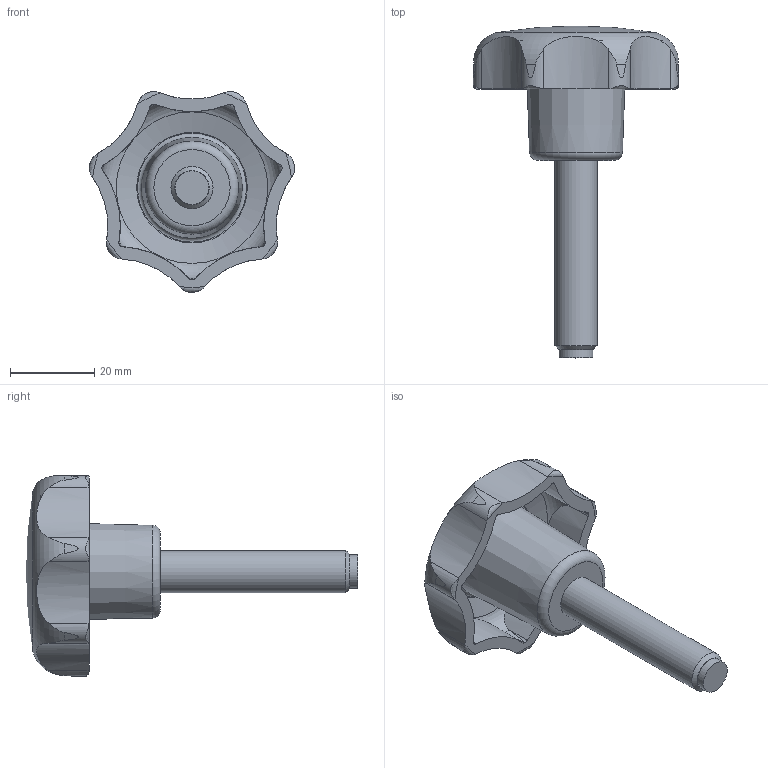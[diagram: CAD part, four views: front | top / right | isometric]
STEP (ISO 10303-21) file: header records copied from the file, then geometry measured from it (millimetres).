
FILE_DESCRIPTION( ( 'STEP AP203' ), '1' );
FILE_NAME( 'C:/Temp/Ganter_Step_05_03_2020/data/2_2/gn6336_10/Star knob GN 6336.10-50-M10-45-MS.stp', '2020-03-05T12:04:16', ( 'License CC BY-ND 4.0' ), ( 'CADENAS' ), ' ', 'PARTsolutions', ' ' );
FILE_SCHEMA( ( 'CONFIG_CONTROL_DESIGN' ) );
Length unit declared in the file: millimetre
Products named in the file (1): _Star knob GN 6336.10-50-M10-45-MS
Bounding box: 48.81 x 79 x 47.78 mm (x, y, z)
Volume: 24203.9 mm3; surface area: 9724 mm2
Topology: 1 solids, 1 shells, 64 faces, 189 edges, 129 vertices
Faces by surface type: cylinder 30, cone 17, torus 12, plane 4, sphere 1
Full cylindrical faces by diameter (mm): 8 x1, 10 x1
Entity records: 3108 total; most frequent: CARTESIAN_POINT 1546, ORIENTED_EDGE 346, DIRECTION 266, EDGE_CURVE 173, VERTEX_POINT 125, AXIS2_PLACEMENT_3D 119, B_SPLINE_CURVE_WITH_KNOTS 91, EDGE_LOOP 77
